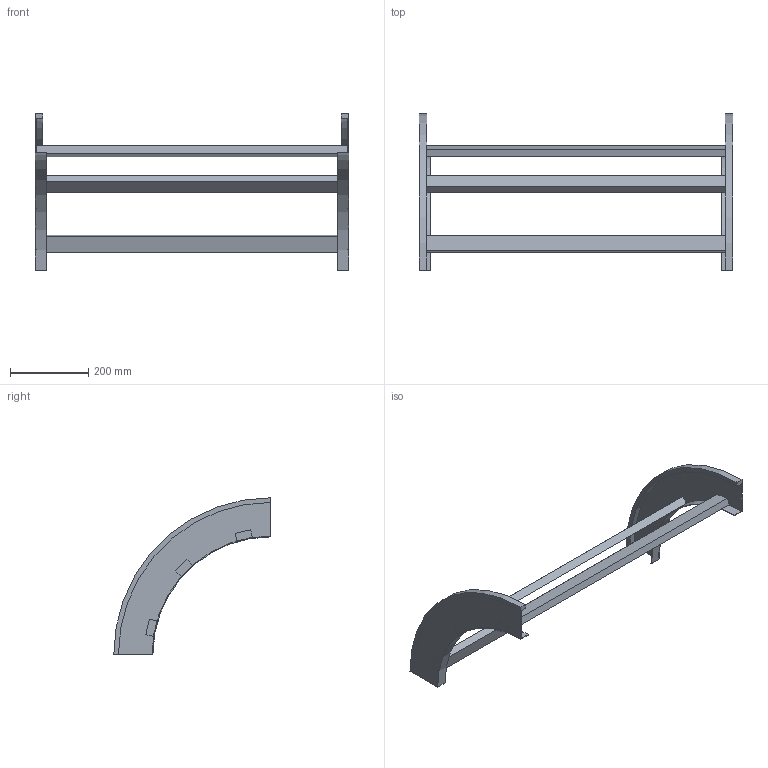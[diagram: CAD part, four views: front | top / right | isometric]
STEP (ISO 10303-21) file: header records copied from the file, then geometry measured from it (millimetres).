
FILE_DESCRIPTION (( 'STEP AP214' ), '1' );
FILE_NAME ('B2_33B3D800.step', '2025-02-21T15:02:43', ( '' ), ( '' ), 'SwSTEP 2.0', 'SolidWorks 2023', '' );
FILE_SCHEMA (( 'AUTOMOTIVE_DESIGN' ));
Length unit declared in the file: millimetre
Products named in the file (3): B2_LONGH.DISCESA_90°_H100_R300; TRAVERSINO_800; B2_33B3D800
Assembly tree (5 placements, depth 2):
  B2_33B3D800
    B2_LONGH.DISCESA_90°_H100_R300  x2
    TRAVERSINO_800  x3
Bounding box: 800 x 400 x 400 mm (x, y, z)
Volume: 2439127.7 mm3; surface area: 606775.9 mm2
Topology: 5 solids, 5 shells, 38 faces, 84 edges, 56 vertices
Faces by surface type: plane 30, cylinder 8
Entity records: 560 total; most frequent: DIRECTION 92, CARTESIAN_POINT 84, ORIENTED_EDGE 72, EDGE_CURVE 36, AXIS2_PLACEMENT_3D 32, LINE 28, VECTOR 28, VERTEX_POINT 24
